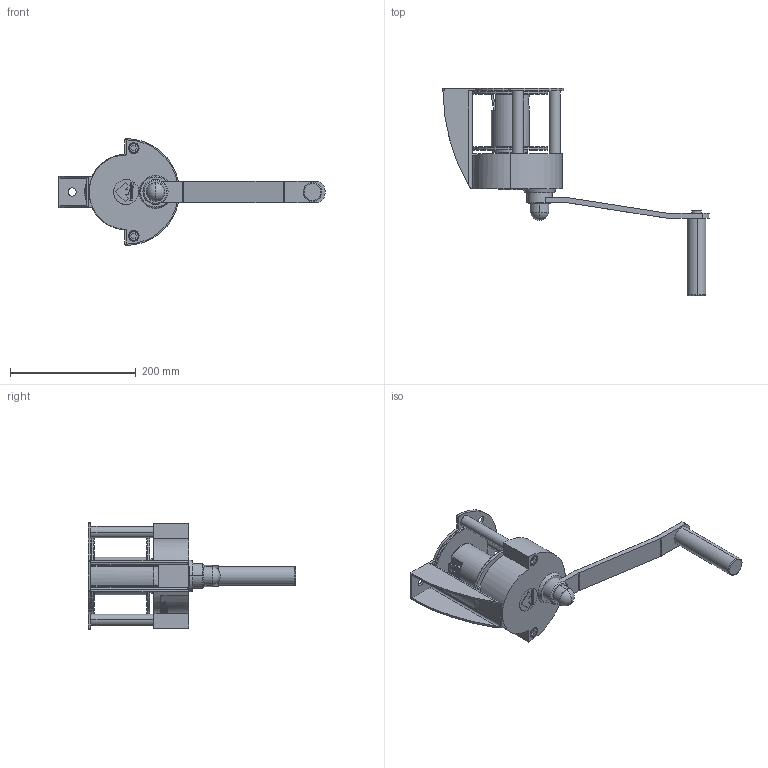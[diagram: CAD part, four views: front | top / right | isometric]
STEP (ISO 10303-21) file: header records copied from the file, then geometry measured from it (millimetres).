
FILE_DESCRIPTION(('Creo Elements/Direct Modeling STEP Export'),'2;1');
FILE_NAME('WE_500_207119.stp','2022-04-01T13:59:08',(''),(''),'Creo Elements/Direct Modeling STEP processor for AP214 (Solid Model)','Creo Elements/Direct Modeling 20.1C 13-Oct-2019 (C) Parametric Technology GmbH','');
FILE_SCHEMA(('AUTOMOTIVE_DESIGN { 1 0 10303 214 1 1 1 1 }'));
Products named in the file (3): Handseilwinde; Kurbel; Handseilwinde_Tango_WE500_207119A
Assembly tree (2 placements, depth 2):
  Handseilwinde_Tango_WE500_207119A
    Kurbel
    Handseilwinde
Bounding box: 423.68 x 329.9 x 170 mm (x, y, z)
Volume: 1686410.9 mm3; surface area: 247537.1 mm2
Topology: 2 solids, 2 shells, 576 faces, 4369 edges, 3971 vertices
Faces by surface type: cylinder 287, plane 213, cone 43, torus 19, bspline 12, sphere 2
Entity records: 72359 total; most frequent: CARTESIAN_POINT 43618, ORIENTED_EDGE 8734, EDGE_CURVE 4367, VERTEX_POINT 3971, B_SPLINE_CURVE_WITH_KNOTS 3329, DIRECTION 1969, EDGE_LOOP 770, AXIS2_PLACEMENT_3D 680
